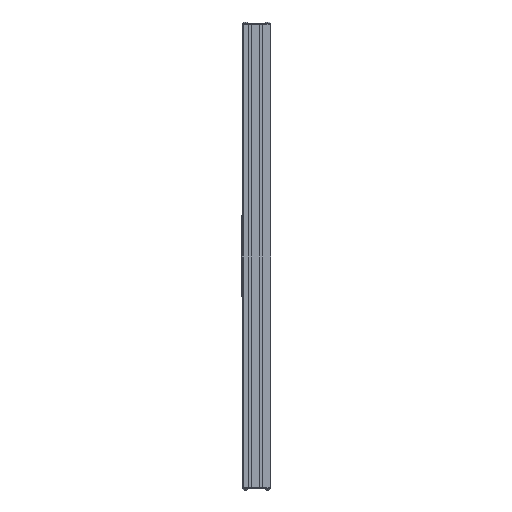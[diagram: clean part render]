
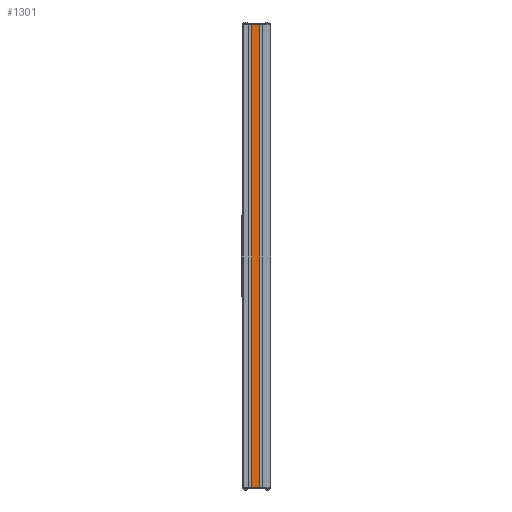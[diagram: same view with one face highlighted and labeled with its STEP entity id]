
A CAD part, left-side view. The second image highlights one B-rep face of the part: STEP entity #1301.
In plain terms, the highlighted planar face has unit normal (-1, 0, 0).
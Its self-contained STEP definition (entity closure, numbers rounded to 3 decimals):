
#428 = EDGE_CURVE ( 'NONE', #9251, #4816, #5790, .T. ) ;
#1301 = ADVANCED_FACE ( 'NONE', ( #8584 ), #8486, .F. ) ;
#1466 = CARTESIAN_POINT ( 'NONE',  ( -30., 23.05, 494. ) ) ;
#1560 = ORIENTED_EDGE ( 'NONE', *, *, #2966, .T. ) ;
#1678 = LINE ( 'NONE', #7689, #5078 ) ;
#2598 = EDGE_CURVE ( 'NONE', #3423, #4816, #1678, .T. ) ;
#2966 = EDGE_CURVE ( 'NONE', #7954, #9251, #6153, .T. ) ;
#3102 = CARTESIAN_POINT ( 'NONE',  ( -30., 23.05, -494. ) ) ;
#3315 = LINE ( 'NONE', #9293, #6244 ) ;
#3423 = VERTEX_POINT ( 'NONE', #1466 ) ;
#3599 = CARTESIAN_POINT ( 'NONE',  ( -30., 40., 494. ) ) ;
#3685 = AXIS2_PLACEMENT_3D ( 'NONE', #6971, #7651, #7113 ) ;
#3799 = CARTESIAN_POINT ( 'NONE',  ( -30., 40., -494. ) ) ;
#3868 = DIRECTION ( 'NONE',  ( 0., -1., 0. ) ) ;
#3915 = CARTESIAN_POINT ( 'NONE',  ( -30., 40., 494. ) ) ;
#4187 = CARTESIAN_POINT ( 'NONE',  ( -30., 0., -494. ) ) ;
#4816 = VERTEX_POINT ( 'NONE', #3102 ) ;
#4869 = DIRECTION ( 'NONE',  ( 0., -1., 0. ) ) ;
#5078 = VECTOR ( 'NONE', #9358, 1000. ) ;
#5710 = EDGE_CURVE ( 'NONE', #7954, #3423, #3315, .T. ) ;
#5790 = LINE ( 'NONE', #4187, #7467 ) ;
#6153 = LINE ( 'NONE', #3915, #6788 ) ;
#6244 = VECTOR ( 'NONE', #3868, 1000. ) ;
#6788 = VECTOR ( 'NONE', #6901, 1000. ) ;
#6901 = DIRECTION ( 'NONE',  ( 0., 0., -1. ) ) ;
#6971 = CARTESIAN_POINT ( 'NONE',  ( -30., 0., 494. ) ) ;
#7113 = DIRECTION ( 'NONE',  ( 0., 1., 0. ) ) ;
#7276 = ORIENTED_EDGE ( 'NONE', *, *, #5710, .F. ) ;
#7467 = VECTOR ( 'NONE', #4869, 1000. ) ;
#7627 = ORIENTED_EDGE ( 'NONE', *, *, #428, .T. ) ;
#7651 = DIRECTION ( 'NONE',  ( 1., 0., 0. ) ) ;
#7689 = CARTESIAN_POINT ( 'NONE',  ( -30., 23.05, 494. ) ) ;
#7954 = VERTEX_POINT ( 'NONE', #3599 ) ;
#8486 = PLANE ( 'NONE',  #3685 ) ;
#8584 = FACE_OUTER_BOUND ( 'NONE', #8934, .T. ) ;
#8900 = ORIENTED_EDGE ( 'NONE', *, *, #2598, .F. ) ;
#8934 = EDGE_LOOP ( 'NONE', ( #7627, #8900, #7276, #1560 ) ) ;
#9251 = VERTEX_POINT ( 'NONE', #3799 ) ;
#9293 = CARTESIAN_POINT ( 'NONE',  ( -30., 0., 494. ) ) ;
#9358 = DIRECTION ( 'NONE',  ( 0., 0., -1. ) ) ;
